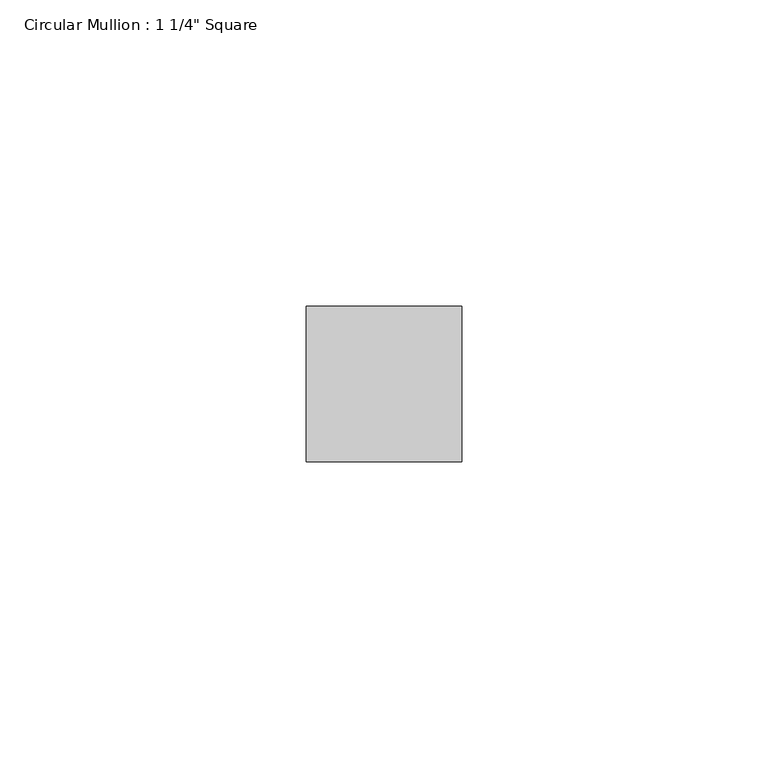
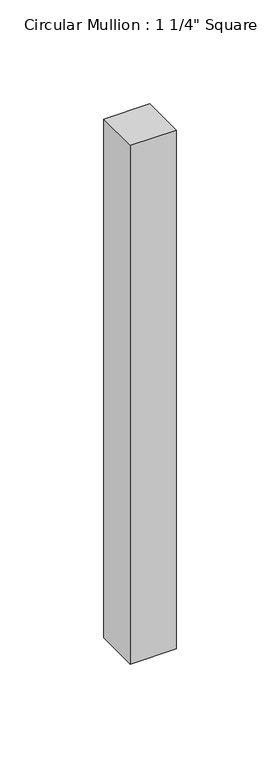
"""IFC4 building model written with IfcOpenShell, lengths in millimetres: member geometry."""

from ifc_helpers import new_model, si_unit, frame, origin, place, context, project, spatial, polyline, outline, extrude, source, transform, mapped, element, save


def member_223704e7(model_context):
    return source(origin(), model_context, "Body", "SweptSolid", [
        extrude(outline(polyline([(12.7, 12.7), (12.7, -12.7), (-12.7, -12.7), (-12.7, 12.7), (12.7, 12.7)])), frame((0.0, 0.0, -304.7999997), z_axis=(0.0, 0.0, 1.0), x_axis=(1.0, 0.0, 0.0)), (0.0, 0.0, 1.0), 304.7999997),
    ])


if __name__ == "__main__":
    model = new_model("IFC4")
    model_context = context("Model", 3, world=origin())
    ifc_project = project(units=[si_unit("LENGTHUNIT", "METRE", prefix="MILLI")], contexts=[model_context])
    site = spatial("IfcSite", under=ifc_project)
    building = spatial("IfcBuilding", under=site)
    placement = place(None, origin())
    member_shape = member_223704e7(model_context)
    element("IfcMember", 1, ObjectType="Circular Mullion : 1 1/4\" Square", at=placement, inside=building, context=model_context, shape_type="MappedRepresentation", body=[
        mapped(member_shape, transform((0.0, 0.0, 0.0), x_axis=(1.0, 0.0, 0.0), y_axis=(0.0, 1.0, 0.0), z_axis=(0.0, 0.0, 1.0))),
    ])
    save(model, "model.ifc")
